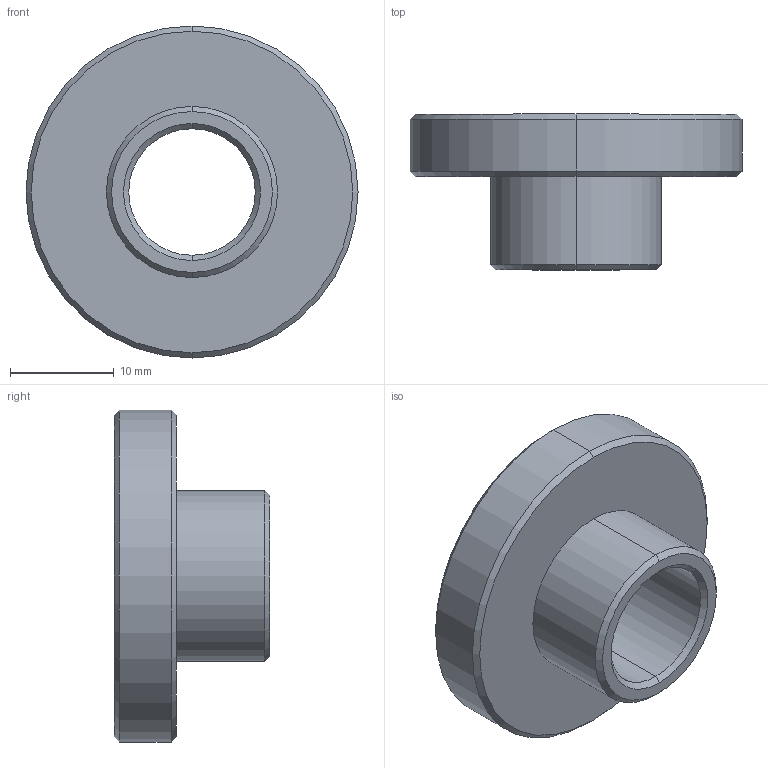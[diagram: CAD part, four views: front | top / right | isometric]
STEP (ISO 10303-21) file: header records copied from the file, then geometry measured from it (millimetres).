
FILE_DESCRIPTION (( 'STEP AP214' ), '1' );
FILE_NAME ('øàéáà 16_12.STEP', '2022-04-04T09:11:44', ( 'VADIM' ), ( '' ), 'SwSTEP 2.0', 'SolidWorks 2021', '' );
FILE_SCHEMA (( 'AUTOMOTIVE_DESIGN' ));
Length unit declared in the file: millimetre
Products named in the file (1): øàéáà 16_12
Bounding box: 32 x 15 x 32 mm (x, y, z)
Volume: 4955.4 mm3; surface area: 2922.5 mm2
Topology: 1 solids, 1 shells, 19 faces, 38 edges, 22 vertices
Faces by surface type: cone 10, cylinder 6, plane 3
Entity records: 532 total; most frequent: DIRECTION 100, CARTESIAN_POINT 80, ORIENTED_EDGE 76, AXIS2_PLACEMENT_3D 42, EDGE_CURVE 38, EDGE_LOOP 22, CIRCLE 22, VERTEX_POINT 22
